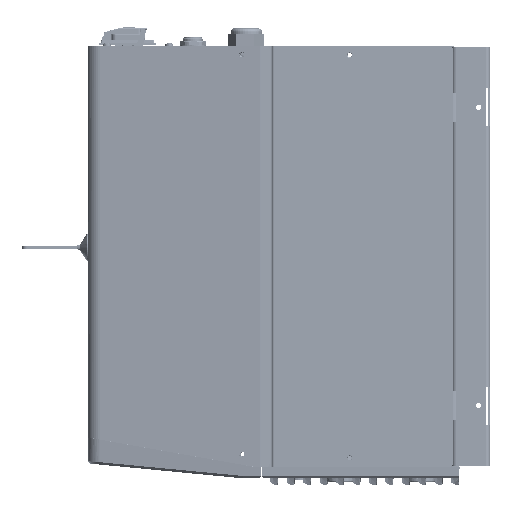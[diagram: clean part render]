
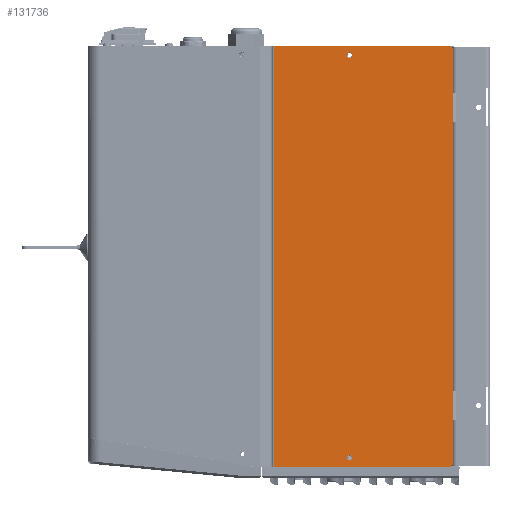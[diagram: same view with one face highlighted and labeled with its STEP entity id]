
A CAD part, left-side view. The second image highlights one B-rep face of the part: STEP entity #131736.
In plain terms, the highlighted planar face has unit normal (-1, 0, 0).
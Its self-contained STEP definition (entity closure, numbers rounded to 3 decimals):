
#124 = EDGE_CURVE ( 'NONE', #79645, #180078, #131961, .T. ) ;
#3250 = DIRECTION ( 'NONE',  ( 0., -1., 0. ) ) ;
#4095 = VECTOR ( 'NONE', #3250, 39.37 ) ;
#5101 = VERTEX_POINT ( 'NONE', #238981 ) ;
#5995 = LINE ( 'NONE', #10331, #11925 ) ;
#6655 = CARTESIAN_POINT ( 'NONE',  ( -6.875, 1.947, -11.096 ) ) ;
#8122 = CARTESIAN_POINT ( 'NONE',  ( -6.875, 2.197, 10.855 ) ) ;
#8381 = VERTEX_POINT ( 'NONE', #157536 ) ;
#10260 = CARTESIAN_POINT ( 'NONE',  ( -6.875, 7.394, 10.465 ) ) ;
#10331 = CARTESIAN_POINT ( 'NONE',  ( -6.875, 1.947, 11.105 ) ) ;
#10769 = DIRECTION ( 'NONE',  ( 0., 1., 0. ) ) ;
#11925 = VECTOR ( 'NONE', #142609, 39.37 ) ;
#13374 = CARTESIAN_POINT ( 'NONE',  ( -6.875, 7.394, -10.596 ) ) ;
#13700 = VERTEX_POINT ( 'NONE', #19452 ) ;
#14447 = ORIENTED_EDGE ( 'NONE', *, *, #232950, .F. ) ;
#19452 = CARTESIAN_POINT ( 'NONE',  ( -6.875, 7.394, -10.455 ) ) ;
#21763 = CARTESIAN_POINT ( 'NONE',  ( -6.875, 1.947, 10.855 ) ) ;
#23041 = CARTESIAN_POINT ( 'NONE',  ( -6.875, 7.394, 10.605 ) ) ;
#23635 = VERTEX_POINT ( 'NONE', #204684 ) ;
#28435 = ORIENTED_EDGE ( 'NONE', *, *, #150769, .T. ) ;
#30354 = AXIS2_PLACEMENT_3D ( 'NONE', #203724, #90185, #222740 ) ;
#31873 = CARTESIAN_POINT ( 'NONE',  ( -6.875, 1.947, 11.105 ) ) ;
#32264 = DIRECTION ( 'NONE',  ( 0., 0., 1. ) ) ;
#33047 = VECTOR ( 'NONE', #200869, 39.37 ) ;
#34018 = CARTESIAN_POINT ( 'NONE',  ( -6.875, 11.363, 11.105 ) ) ;
#39115 = LINE ( 'NONE', #31873, #234757 ) ;
#39447 = CARTESIAN_POINT ( 'NONE',  ( -6.875, 1.947, 7.105 ) ) ;
#40252 = EDGE_LOOP ( 'NONE', ( #58842, #145012 ) ) ;
#41993 = DIRECTION ( 'NONE',  ( 0., 0., 1. ) ) ;
#43513 = CIRCLE ( 'NONE', #69248, 0.14 ) ;
#45745 = VECTOR ( 'NONE', #177072, 39.37 ) ;
#58842 = ORIENTED_EDGE ( 'NONE', *, *, #209611, .F. ) ;
#60725 = ORIENTED_EDGE ( 'NONE', *, *, #118167, .F. ) ;
#62002 = ORIENTED_EDGE ( 'NONE', *, *, #129557, .T. ) ;
#62501 = CARTESIAN_POINT ( 'NONE',  ( -6.875, 11.363, 11.105 ) ) ;
#69248 = AXIS2_PLACEMENT_3D ( 'NONE', #23041, #155519, #41993 ) ;
#71273 = ORIENTED_EDGE ( 'NONE', *, *, #129693, .T. ) ;
#71993 = DIRECTION ( 'NONE',  ( 1., 0., 0. ) ) ;
#79645 = VERTEX_POINT ( 'NONE', #126625 ) ;
#79685 = DIRECTION ( 'NONE',  ( 0., 0., -1. ) ) ;
#80432 = VERTEX_POINT ( 'NONE', #107652 ) ;
#80982 = EDGE_LOOP ( 'NONE', ( #202765, #181225 ) ) ;
#82427 = FACE_BOUND ( 'NONE', #80982, .T. ) ;
#83967 = EDGE_CURVE ( 'NONE', #128371, #214076, #112596, .T. ) ;
#85212 = AXIS2_PLACEMENT_3D ( 'NONE', #8122, #121380, #234851 ) ;
#85902 = ORIENTED_EDGE ( 'NONE', *, *, #83967, .T. ) ;
#87066 = AXIS2_PLACEMENT_3D ( 'NONE', #13374, #145695, #32264 ) ;
#87477 = VERTEX_POINT ( 'NONE', #99063 ) ;
#88480 = CIRCLE ( 'NONE', #87066, 0.14 ) ;
#89532 = EDGE_CURVE ( 'NONE', #80432, #214076, #193582, .T. ) ;
#90185 = DIRECTION ( 'NONE',  ( -1., 0., 0. ) ) ;
#97417 = CIRCLE ( 'NONE', #30354, 0.14 ) ;
#98747 = CARTESIAN_POINT ( 'NONE',  ( -6.875, 1.947, 11.105 ) ) ;
#99063 = CARTESIAN_POINT ( 'NONE',  ( -6.875, 1.947, -10.846 ) ) ;
#100647 = VERTEX_POINT ( 'NONE', #207598 ) ;
#103832 = VECTOR ( 'NONE', #219759, 39.37 ) ;
#106258 = CARTESIAN_POINT ( 'NONE',  ( -6.875, 1.947, -7.096 ) ) ;
#107652 = CARTESIAN_POINT ( 'NONE',  ( -6.875, 11.363, 11.105 ) ) ;
#108405 = CARTESIAN_POINT ( 'NONE',  ( -6.875, 7.394, 10.605 ) ) ;
#111823 = AXIS2_PLACEMENT_3D ( 'NONE', #34018, #71993, #204658 ) ;
#112596 = CIRCLE ( 'NONE', #85212, 0.25 ) ;
#118167 = EDGE_CURVE ( 'NONE', #23635, #171583, #39115, .T. ) ;
#119586 = CARTESIAN_POINT ( 'NONE',  ( -6.875, 11.363, -11.096 ) ) ;
#121380 = DIRECTION ( 'NONE',  ( -1., 0., 0. ) ) ;
#121608 = AXIS2_PLACEMENT_3D ( 'NONE', #108405, #240942, #127418 ) ;
#124004 = DIRECTION ( 'NONE',  ( -1., 0., 0. ) ) ;
#125453 = EDGE_CURVE ( 'NONE', #206070, #5101, #211121, .T. ) ;
#126625 = CARTESIAN_POINT ( 'NONE',  ( -6.875, 1.947, 8.605 ) ) ;
#126786 = EDGE_LOOP ( 'NONE', ( #71273, #28435, #160518, #60725, #179893, #207800, #14447, #85902, #172004, #62002 ) ) ;
#127093 = EDGE_CURVE ( 'NONE', #171583, #87477, #152499, .T. ) ;
#127155 = AXIS2_PLACEMENT_3D ( 'NONE', #237495, #124004, #10769 ) ;
#127418 = DIRECTION ( 'NONE',  ( 0., 0., 1. ) ) ;
#128371 = VERTEX_POINT ( 'NONE', #21763 ) ;
#129557 = EDGE_CURVE ( 'NONE', #80432, #164920, #213942, .T. ) ;
#129693 = EDGE_CURVE ( 'NONE', #164920, #8381, #234561, .T. ) ;
#131736 = ADVANCED_FACE ( 'NONE', ( #82427, #183303, #233625 ), #185606, .F. ) ;
#131961 = LINE ( 'NONE', #98747, #232759 ) ;
#135522 = CARTESIAN_POINT ( 'NONE',  ( -6.875, 11.363, 11.105 ) ) ;
#142609 = DIRECTION ( 'NONE',  ( 0., 0., -1. ) ) ;
#145012 = ORIENTED_EDGE ( 'NONE', *, *, #239001, .F. ) ;
#145695 = DIRECTION ( 'NONE',  ( -1., 0., 0. ) ) ;
#150769 = EDGE_CURVE ( 'NONE', #8381, #87477, #154364, .T. ) ;
#152499 = LINE ( 'NONE', #6655, #45745 ) ;
#154364 = CIRCLE ( 'NONE', #127155, 0.25 ) ;
#155519 = DIRECTION ( 'NONE',  ( -1., 0., 0. ) ) ;
#157536 = CARTESIAN_POINT ( 'NONE',  ( -6.875, 2.197, -11.096 ) ) ;
#158833 = EDGE_CURVE ( 'NONE', #180078, #23635, #204664, .T. ) ;
#160518 = ORIENTED_EDGE ( 'NONE', *, *, #127093, .F. ) ;
#163530 = VECTOR ( 'NONE', #195200, 39.37 ) ;
#164920 = VERTEX_POINT ( 'NONE', #119586 ) ;
#171583 = VERTEX_POINT ( 'NONE', #208797 ) ;
#172004 = ORIENTED_EDGE ( 'NONE', *, *, #89532, .F. ) ;
#177072 = DIRECTION ( 'NONE',  ( 0., 0., -1. ) ) ;
#179309 = CARTESIAN_POINT ( 'NONE',  ( -6.875, 2.197, 11.105 ) ) ;
#179893 = ORIENTED_EDGE ( 'NONE', *, *, #158833, .F. ) ;
#180078 = VERTEX_POINT ( 'NONE', #39447 ) ;
#181225 = ORIENTED_EDGE ( 'NONE', *, *, #125453, .F. ) ;
#181843 = CARTESIAN_POINT ( 'NONE',  ( -6.875, 11.363, -11.096 ) ) ;
#183303 = FACE_OUTER_BOUND ( 'NONE', #126786, .T. ) ;
#185606 = PLANE ( 'NONE',  #111823 ) ;
#193582 = LINE ( 'NONE', #135522, #4095 ) ;
#194695 = EDGE_CURVE ( 'NONE', #5101, #206070, #43513, .T. ) ;
#195200 = DIRECTION ( 'NONE',  ( 0., 0., -1. ) ) ;
#200869 = DIRECTION ( 'NONE',  ( 0., -1., 0. ) ) ;
#202489 = DIRECTION ( 'NONE',  ( 0., 0., -1. ) ) ;
#202765 = ORIENTED_EDGE ( 'NONE', *, *, #194695, .F. ) ;
#203724 = CARTESIAN_POINT ( 'NONE',  ( -6.875, 7.394, -10.596 ) ) ;
#204658 = DIRECTION ( 'NONE',  ( 0., 1., 0. ) ) ;
#204664 = LINE ( 'NONE', #106258, #103832 ) ;
#204684 = CARTESIAN_POINT ( 'NONE',  ( -6.875, 1.947, -7.096 ) ) ;
#206070 = VERTEX_POINT ( 'NONE', #10260 ) ;
#207598 = CARTESIAN_POINT ( 'NONE',  ( -6.875, 7.394, -10.736 ) ) ;
#207800 = ORIENTED_EDGE ( 'NONE', *, *, #124, .F. ) ;
#208797 = CARTESIAN_POINT ( 'NONE',  ( -6.875, 1.947, -8.596 ) ) ;
#209611 = EDGE_CURVE ( 'NONE', #13700, #100647, #97417, .T. ) ;
#211121 = CIRCLE ( 'NONE', #121608, 0.14 ) ;
#213942 = LINE ( 'NONE', #62501, #163530 ) ;
#214076 = VERTEX_POINT ( 'NONE', #179309 ) ;
#219759 = DIRECTION ( 'NONE',  ( 0., 0., -1. ) ) ;
#222740 = DIRECTION ( 'NONE',  ( 0., 0., 1. ) ) ;
#232759 = VECTOR ( 'NONE', #79685, 39.37 ) ;
#232950 = EDGE_CURVE ( 'NONE', #128371, #79645, #5995, .T. ) ;
#233625 = FACE_BOUND ( 'NONE', #40252, .T. ) ;
#234561 = LINE ( 'NONE', #181843, #33047 ) ;
#234757 = VECTOR ( 'NONE', #202489, 39.37 ) ;
#234851 = DIRECTION ( 'NONE',  ( 0., 1., 0. ) ) ;
#237495 = CARTESIAN_POINT ( 'NONE',  ( -6.875, 2.197, -10.846 ) ) ;
#238981 = CARTESIAN_POINT ( 'NONE',  ( -6.875, 7.394, 10.746 ) ) ;
#239001 = EDGE_CURVE ( 'NONE', #100647, #13700, #88480, .T. ) ;
#240942 = DIRECTION ( 'NONE',  ( -1., 0., 0. ) ) ;
